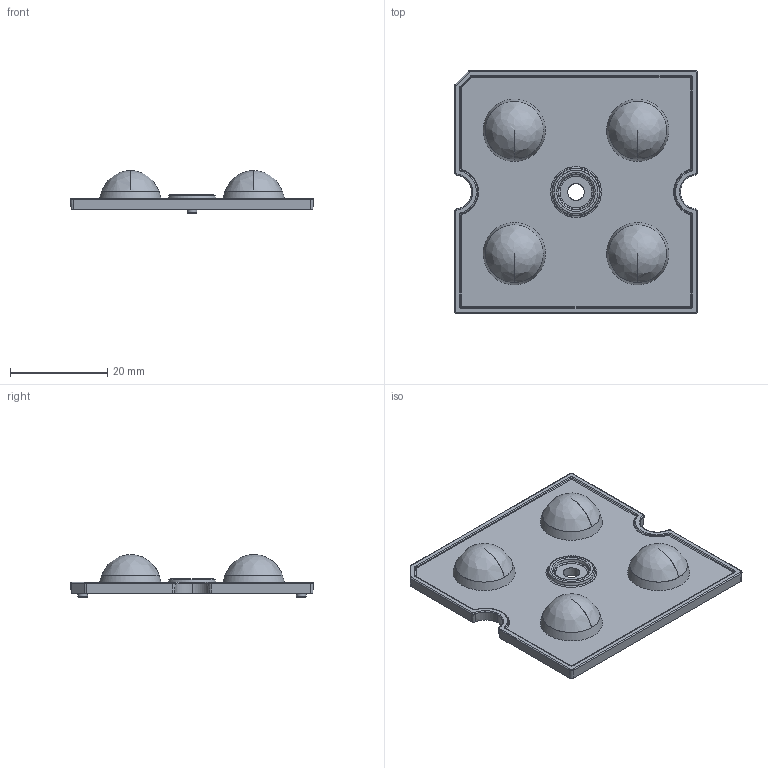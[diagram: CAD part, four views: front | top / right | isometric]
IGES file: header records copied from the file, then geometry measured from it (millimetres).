
Start section: C
Global section: file name: 023YW09Y04.igs; native system: By Siemens PLM Incorporated; preprocessor: XPlus GENERIC/IGES 23.0.61; author: Author; organization: Title; date: 20221118.073519; units: millimetre
Bounding box: 49.98 x 49.98 x 8.8 mm (x, y, z)
Surface area: 6117.6 mm2 (no closed solid volume)
Topology: 0 solids, 0 shells, 295 faces, 2038 edges, 2034 vertices
Faces by surface type: bspline 295
